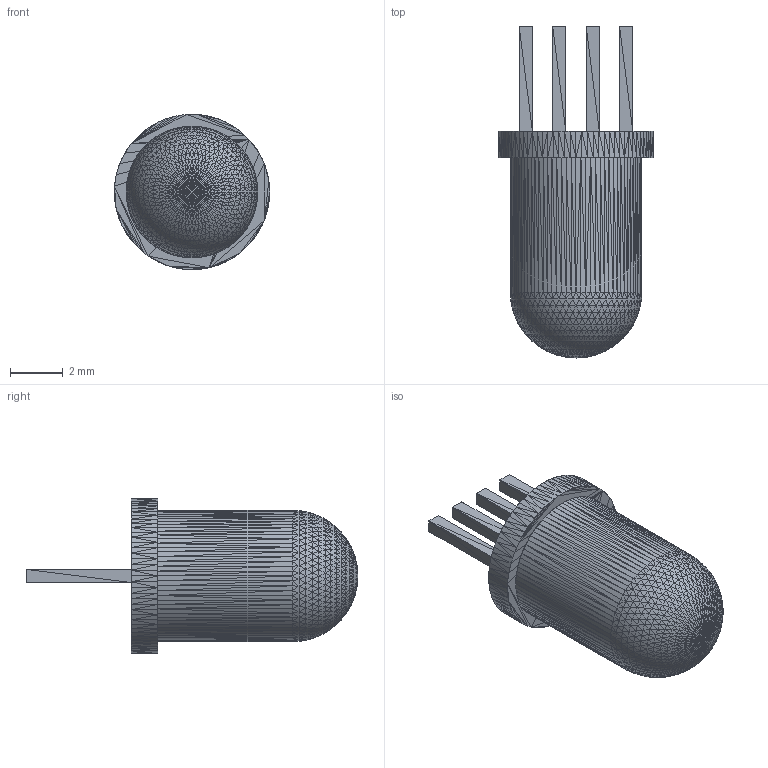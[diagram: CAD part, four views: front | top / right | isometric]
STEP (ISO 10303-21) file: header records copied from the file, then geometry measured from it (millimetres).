
FILE_DESCRIPTION(('Open CASCADE Model'),'2;1');
FILE_NAME('REF_led_WP154A4_partial_faceted_source_not_watertight_', '2026-09-08T13:43:21',('Author'),('Open CASCADE'), 'Open CASCADE STEP processor 7.8','build123d','Unknown');
FILE_SCHEMA(('AUTOMOTIVE_DESIGN { 1 0 10303 214 1 1 1 1 }'));
Length unit declared in the file: millimetre
Products named in the file (9): =>[0:1:1:2]; REF_led_WP154A4_partial_faceted_source_not_watertight_; SOLID; SHELL
Assembly tree (8 placements, depth 3):
  =>[0:1:1:2]
    REF_led_WP154A4_partial_faceted_source_not_watertight_
      SOLID
      SHELL
      SHELL
      SOLID
      SOLID
      SOLID
      SOLID
Bounding box: 5.9 x 12.6 x 5.9 mm (x, y, z)
Volume: 31.3 mm3; surface area: 246.1 mm2
Topology: 5 solids, 7 shells, 2420 faces, 3714 edges, 1306 vertices
Faces by surface type: plane 2420
Entity records: 95250 total; most frequent: DIRECTION 15832, CARTESIAN_POINT 14709, LINE 10974, VECTOR 10974, ORIENTED_EDGE 7260, PCURVE 7260, DEFINITIONAL_REPRESENTATION 7260, EDGE_CURVE 3714
